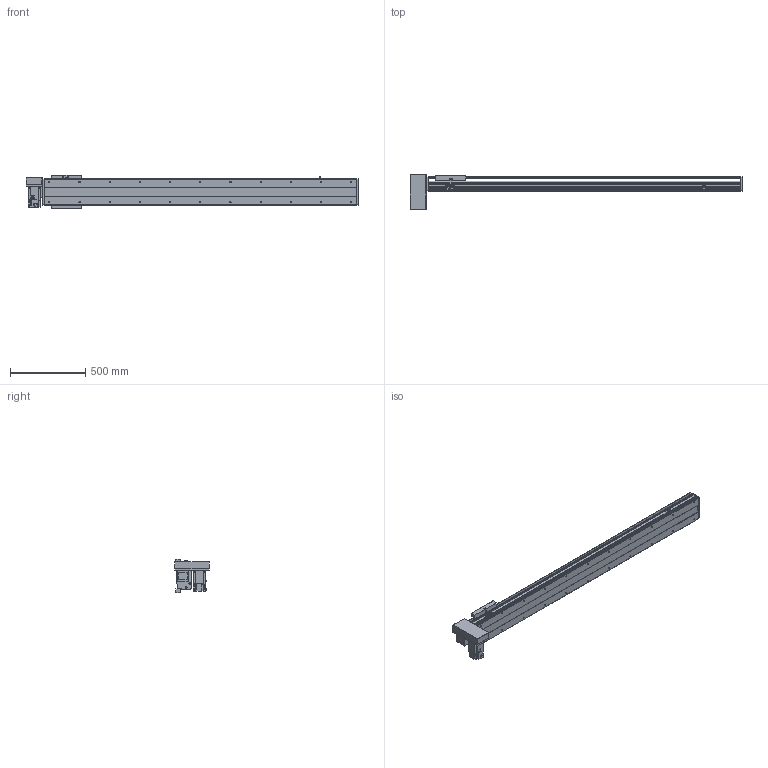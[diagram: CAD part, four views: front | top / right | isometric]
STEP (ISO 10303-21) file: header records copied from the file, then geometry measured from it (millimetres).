
FILE_DESCRIPTION(/* description */ ('STEP AP214'),/* implementation_level */ '2;1');
FILE_NAME(/* name */ 'PBS200-P40-S1700-RD-T75-C1-N(0)',/* time_stamp */ '2022-06-11T09:30:19+02:00',/* author */ ('License CC BY-ND 4.0'),/* organization */ ('CADENAS'),/* preprocessor_version */ 'ST-DEVELOPER v18.102',/* originating_system */ 'PARTsolutions',/* authorisation */ ' ');
FILE_SCHEMA (('AUTOMOTIVE_DESIGN {1 0 10303 214 3 1 1}'));
Length unit declared in the file: millimetre
Products named in the file (7): PBS200-P40-S1700-RD-T75-C1-N(0); PBS200_sensor; PBS200_plant; PBS200_sliser; T75-p1; PBS200T-RD_motors; PBS200-S1700()_body
Assembly tree (8 placements, depth 2):
  PBS200-P40-S1700-RD-T75-C1-N(0)
    PBS200_sensor  x3
    PBS200_plant
    PBS200_sliser
    T75-p1
    PBS200T-RD_motors
    PBS200-S1700()_body
Bounding box: 2200 x 230 x 221 mm (x, y, z)
Volume: 15608767.1 mm3; surface area: 2508498.3 mm2
Topology: 8 solids, 8 shells, 938 faces, 2404 edges, 1566 vertices
Faces by surface type: plane 580, cylinder 304, cone 54
Full cylindrical faces by diameter (mm): 2.459 x6, 3.242 x4, 4.5 x6, 4.917 x4, 5 x6, 6 x7, 6.6 x8, 6.647 x26, 8 x6, 10 x4, 12 x8, 38 x2, 40 x1, 70 x1
Entity records: 24941 total; most frequent: DIRECTION 4399, CARTESIAN_POINT 4246, ORIENTED_EDGE 4018, EDGE_CURVE 2009, AXIS2_PLACEMENT_3D 1543, VERTEX_POINT 1390, LINE 1313, VECTOR 1313
